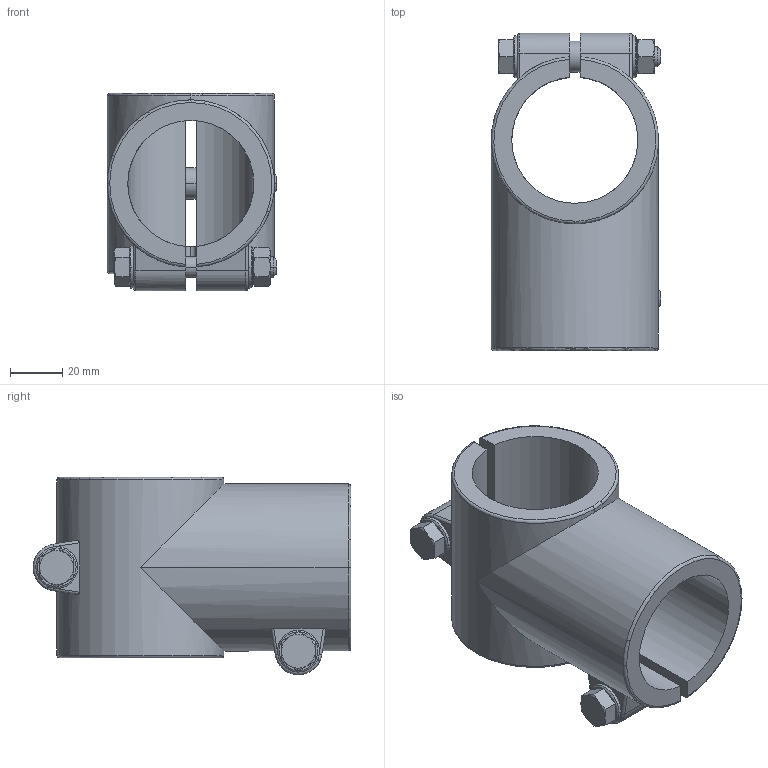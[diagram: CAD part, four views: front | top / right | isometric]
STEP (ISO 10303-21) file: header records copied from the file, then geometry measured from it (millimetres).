
FILE_DESCRIPTION(('CATIA V5 STEP Exchange'),'2;1');
FILE_NAME('X:\CODICI MOVEX\3D per clienti\3D definitivi\Part 400\P41701_01.stp','2016-08-05T14:20:04+00:00',('none'),('none'),'Version 5-6 Release 2012','CATIA V5 STEP AP203','none');
FILE_SCHEMA(('CONFIG_CONTROL_DESIGN'));
Length unit declared in the file: millimetre
Products named in the file (1): P41701_01
Assembly tree (9 placements, depth 2):
  P41701_01
    #58
    #2759  x2
    #3360  x4
    #3644  x2
Bounding box: 64.9 x 121.49 x 75.49 mm (x, y, z)
Volume: 173447.6 mm3; surface area: 55725.7 mm2
Topology: 9 solids, 9 shells, 171 faces, 429 edges, 276 vertices
Faces by surface type: plane 61, cylinder 58, cone 30, torus 22
Entity records: 4221 total; most frequent: CARTESIAN_POINT 1498, ORIENTED_EDGE 584, DIRECTION 443, EDGE_CURVE 292, AXIS2_PLACEMENT_3D 215, VERTEX_POINT 188, EDGE_LOOP 124, VECTOR 115
